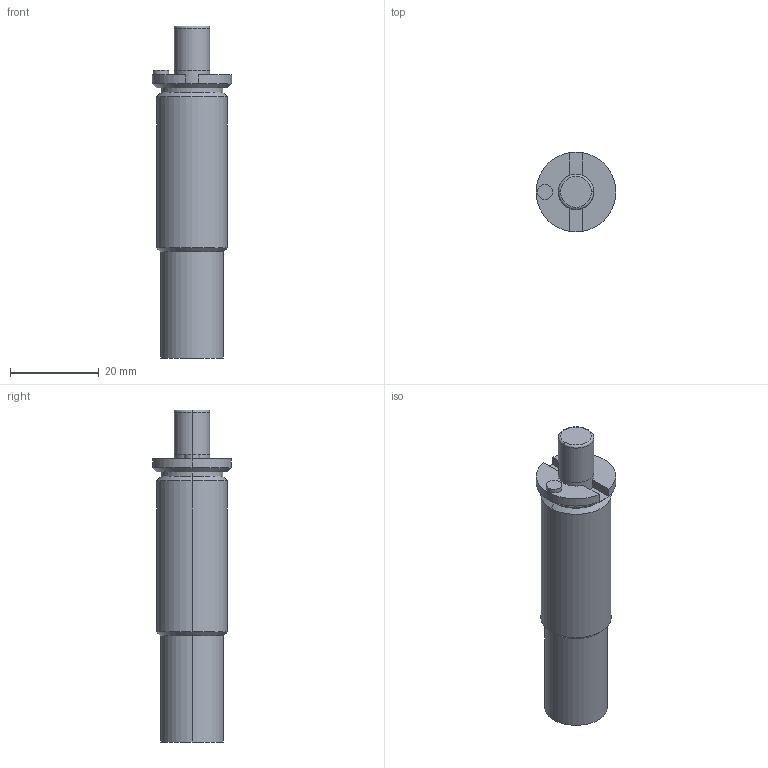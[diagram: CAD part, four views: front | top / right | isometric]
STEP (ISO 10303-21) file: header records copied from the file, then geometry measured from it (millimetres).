
FILE_DESCRIPTION(/* description */ (''),/* implementation_level */ '2;1');
FILE_NAME(/* name */ '3d_mgsb16-10_04561_r00.stp',/* time_stamp */ '2011-01-10T14:13:36+09:00',/* author */ ('MISUMI'),/* organization */ (''),/* preprocessor_version */ 'ST-DEVELOPER v11',/* originating_system */ 'UGS - NX 5.0',/* authorisation */ '');
FILE_SCHEMA (('CONFIG_CONTROL_DESIGN'));
Length unit declared in the file: millimetre
Products named in the file (1): 3d_mgsb16-10_04561_r00
Bounding box: 18 x 17.97 x 75 mm (x, y, z)
Volume: 12386.1 mm3; surface area: 3927.8 mm2
Topology: 1 solids, 1 shells, 36 faces, 78 edges, 46 vertices
Faces by surface type: cylinder 16, plane 12, cone 6, torus 2
Entity records: 1066 total; most frequent: DIRECTION 194, CARTESIAN_POINT 161, ORIENTED_EDGE 156, AXIS2_PLACEMENT_3D 79, EDGE_CURVE 78, VERTEX_POINT 46, CIRCLE 42, EDGE_LOOP 38
